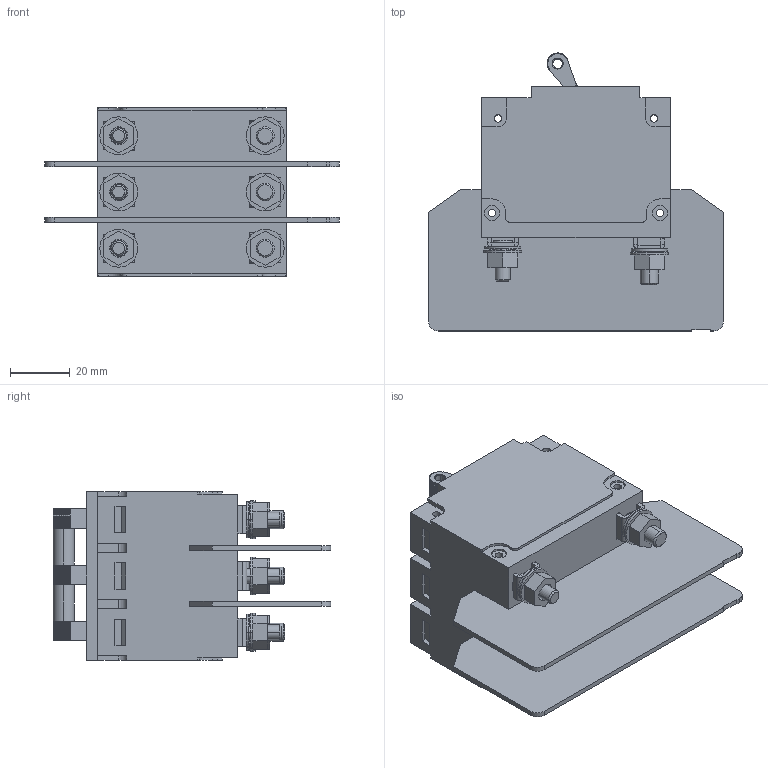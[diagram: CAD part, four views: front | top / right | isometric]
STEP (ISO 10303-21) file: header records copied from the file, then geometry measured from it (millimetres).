
FILE_DESCRIPTION((''),'2;1');
FILE_NAME('CR_MODEL_3P_SW0001','2008-07-08T',('davidparker'),(''),'PRO/ENGINEER BY PARAMETRIC TECHNOLOGY CORPORATION, 2008010','PRO/ENGINEER BY PARAMETRIC TECHNOLOGY CORPORATION, 2008010','');
FILE_SCHEMA(('CONFIG_CONTROL_DESIGN'));
Products named in the file (1): CR_MODEL_3P_SW0001
Bounding box: 99.06 x 93.38 x 56.69 mm (x, y, z)
Volume: 99340.2 mm3; surface area: 81922.6 mm2
Topology: 7 solids, 7 shells, 3966 faces, 10859 edges, 6993 vertices
Faces by surface type: plane 2819, cylinder 797, bspline 223, cone 84, torus 43
Entity records: 132063 total; most frequent: CARTESIAN_POINT 30584, ORIENTED_EDGE 21718, DIRECTION 20209, EDGE_CURVE 10859, VECTOR 8425, LINE 8425, VERTEX_POINT 6993, AXIS2_PLACEMENT_3D 5892
